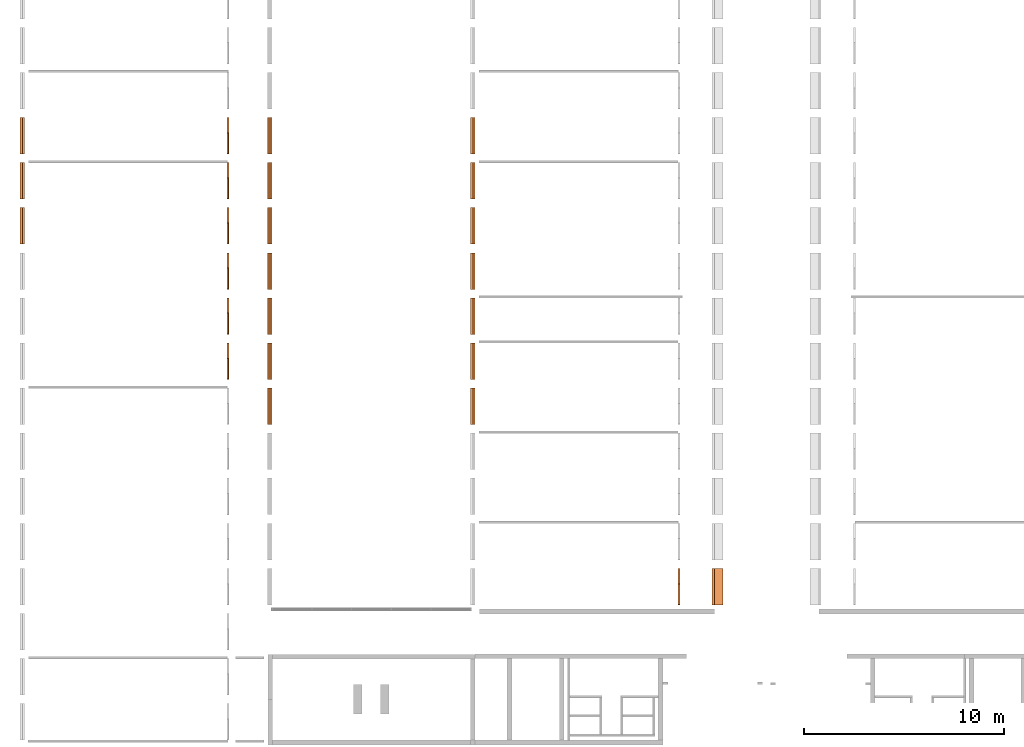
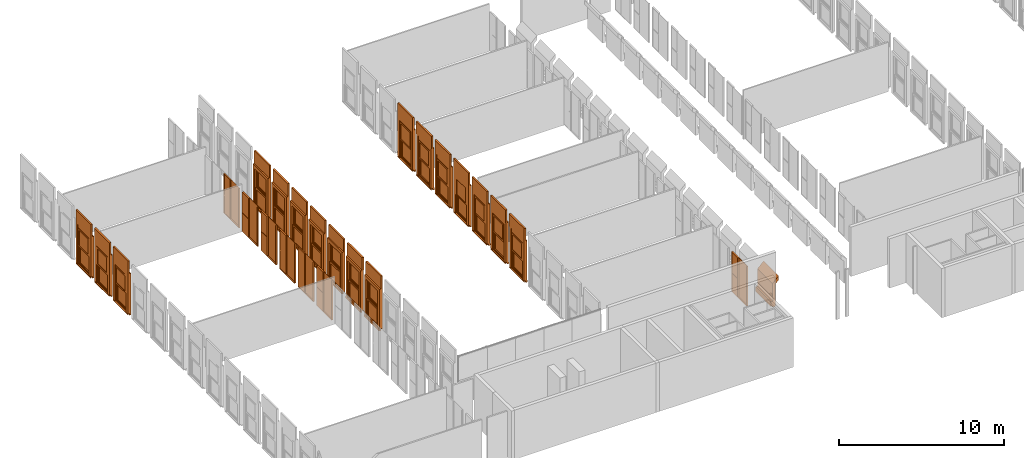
# One storey, part 7 of 13: 25 proxies.
"""IFC2X3 building model written with IfcOpenShell, lengths in millimetres."""

import ifcopenshell
import ifcopenshell.guid

model = None  # the IFC model being written
_history = None  # IfcOwnerHistory: only IFC2X3 demands one
_inside = {}  # id of a spatial element -> (the spatial element, [elements in it])
_under = {}  # id of a project, library or spatial element -> (it, [spatial elements below it])
_declared = {}  # id of a project -> (the project, [libraries it declares])
_typed = {}  # id of a type object -> (the type object, [elements of that type])
_made_of = {}  # id of a material, layer set ... -> (it, [elements and type objects made of it])


def new_model(schema):
    """Start an empty IFC model of exactly this schema.

    Asked for "IFC4X3", IfcOpenShell would pick the latest addendum, in which some entities
    have other attributes; the version numbers below select the first issue.
    IFC2X3 requires an IfcOwnerHistory on every rooted entity: one is made here for all.
    """
    global model, _history
    if schema == "IFC4X3":
        model = ifcopenshell.file(schema_version=(4, 3, 0, 0))
    else:
        model = ifcopenshell.file(schema=schema)
    _inside.clear()
    _under.clear()
    _declared.clear()
    _typed.clear()
    _made_of.clear()
    _history = None
    if model.schema == "IFC2X3":
        org = make("IfcOrganization", Name="unknown")
        user = make(
            "IfcPersonAndOrganization",
            ThePerson=make("IfcPerson", FamilyName="unknown"),
            TheOrganization=org,
        )
        app = make(
            "IfcApplication",
            ApplicationDeveloper=org,
            Version="unknown",
            ApplicationFullName="unknown",
            ApplicationIdentifier="unknown",
        )
        _history = make(
            "IfcOwnerHistory",
            OwningUser=user,
            OwningApplication=app,
            ChangeAction="ADDED",
            CreationDate=0,
        )
    return model


def make(cls, **values):
    """One entity of the class cls with the attributes given. An attribute that is None is left unset."""
    return model.create_entity(
        cls, **{name: value for name, value in values.items() if value is not None}
    )


def entity(cls, *values):
    """Any entity or typed value of the class cls, its attributes in the order of the schema. None: left unset."""
    e = model.create_entity(cls)
    for i, value in enumerate(values):
        if value is not None:
            e[i] = value
    return e


def rooted(cls, **values):
    """An entity with a GlobalId (a new one), such as an element, a storey or a relation."""
    return make(cls, GlobalId=ifcopenshell.guid.new(), OwnerHistory=_history, **values)


def si_unit(unit_type, name, prefix=None):
    """IfcSIUnit, for example si_unit("LENGTHUNIT", "METRE", prefix="MILLI")."""
    return make("IfcSIUnit", UnitType=unit_type, Prefix=prefix, Name=name)


def converted_unit(unit_type, name, factor, base, dimensions=None, offset=None):
    """IfcConversionBasedUnit, such as the inch: factor (a typed value) times the base unit."""
    return make(
        "IfcConversionBasedUnit"
        if offset is None
        else "IfcConversionBasedUnitWithOffset",
        ConversionOffset=offset,
        Dimensions=None
        if dimensions is None
        else entity("IfcDimensionalExponents", *dimensions),
        UnitType=unit_type,
        Name=name,
        ConversionFactor=make(
            "IfcMeasureWithUnit", ValueComponent=factor, UnitComponent=base
        ),
    )


def derived_unit(unit_type, elements):
    """IfcDerivedUnit: a product of units, each with its exponent."""
    return make(
        "IfcDerivedUnit",
        Elements=[
            make("IfcDerivedUnitElement", Unit=unit, Exponent=power)
            for unit, power in elements
        ],
        UnitType=unit_type,
    )


def assignment(units):
    """IfcUnitAssignment: the units of a project."""
    return None if units is None else make("IfcUnitAssignment", Units=units)


def point(xyz):
    """IfcCartesianPoint."""
    return None if xyz is None else make("IfcCartesianPoint", Coordinates=xyz)


def direction(xyz):
    """IfcDirection."""
    return None if xyz is None else make("IfcDirection", DirectionRatios=xyz)


def frame(location, z_axis=None, x_axis=None):
    """IfcAxis2Placement3D, a coordinate frame: its origin and axes. An axis left out is left unset."""
    return make(
        "IfcAxis2Placement3D",
        Location=point(location),
        Axis=direction(z_axis),
        RefDirection=direction(x_axis),
    )


def frame_2d(location, x_axis=None):
    """IfcAxis2Placement2D, a coordinate frame in the plane: its origin and x axis."""
    return make(
        "IfcAxis2Placement2D", Location=point(location), RefDirection=direction(x_axis)
    )


def origin():
    """The frame at (0, 0, 0) with its axes left unset."""
    return frame((0.0, 0.0, 0.0))


def origin_2d_with_axis():
    """The frame at (0, 0) in the plane with the x axis (1, 0) written out."""
    return frame_2d((0.0, 0.0), x_axis=(1.0, 0.0))


def place(relative_to, where):
    """IfcLocalPlacement: puts the frame where relative to a parent placement (None: the world)."""
    return make(
        "IfcLocalPlacement", PlacementRelTo=relative_to, RelativePlacement=where
    )


def context(
    kind, dimensions, precision=None, world=None, true_north=None, identifier=None
):
    """IfcGeometricRepresentationContext, for example the 3D "Model" context."""
    return make(
        "IfcGeometricRepresentationContext",
        ContextIdentifier=identifier,
        ContextType=kind,
        CoordinateSpaceDimension=dimensions,
        Precision=precision,
        WorldCoordinateSystem=world,
        TrueNorth=true_north,
    )


def subcontext(parent, identifier, kind, view, scale=None):
    """IfcGeometricRepresentationSubContext, for example "Body" below "Model"."""
    return make(
        "IfcGeometricRepresentationSubContext",
        ContextIdentifier=identifier,
        ContextType=kind,
        ParentContext=parent,
        TargetScale=scale,
        TargetView=view,
    )


def project(units=None, contexts=None):
    """IfcProject with its units and contexts."""
    return rooted(
        "IfcProject",
        Name="project",
        RepresentationContexts=contexts,
        UnitsInContext=assignment(units),
    )


def spatial(cls, under=None, at=None, **own):
    """A site, building, storey or space (cls), placed at a placement, below another one or the project."""
    s = rooted(cls, ObjectPlacement=at, **own)
    if under is not None:
        _under.setdefault(under.id(), (under, []))[1].append(s)
    return s


def polyline(points):
    """IfcPolyline through the points."""
    return make("IfcPolyline", Points=[point(p) for p in points])


def profile(cls, at=None, kind="AREA", **sizes):
    """A parametric profile (cls). Its sizes go by their IFC names, for example OverallWidth=200.0."""
    return make(cls, ProfileType=kind, Position=at, **sizes)


def rectangle(**sizes):
    """IfcRectangleProfileDef."""
    return profile("IfcRectangleProfileDef", **sizes)


def outline(outer, holes=None, kind="AREA"):
    """IfcArbitraryClosedProfileDef: a profile drawn as a closed curve; with holes, ...WithVoids."""
    if holes is None:
        return make("IfcArbitraryClosedProfileDef", ProfileType=kind, OuterCurve=outer)
    return make(
        "IfcArbitraryProfileDefWithVoids",
        ProfileType=kind,
        OuterCurve=outer,
        InnerCurves=holes,
    )


def extrude(swept, where, along, depth):
    """IfcExtrudedAreaSolid: the profile swept, set in the frame where, extruded along a direction by depth."""
    return make(
        "IfcExtrudedAreaSolid",
        SweptArea=swept,
        Position=where,
        ExtrudedDirection=direction(along),
        Depth=depth,
    )


def shape(context_of_items, identifier, shape_type, items):
    """IfcShapeRepresentation: the items that make up one representation, for example the "Body"."""
    return make(
        "IfcShapeRepresentation",
        ContextOfItems=context_of_items,
        RepresentationIdentifier=identifier,
        RepresentationType=shape_type,
        Items=items,
    )


def source(mapping_origin, context_of_items, identifier, shape_type, items):
    """IfcRepresentationMap: a shape defined once, which mapped items show again and again."""
    return make(
        "IfcRepresentationMap",
        MappingOrigin=mapping_origin,
        MappedRepresentation=shape(context_of_items, identifier, shape_type, items),
    )


def transform(
    local_origin,
    x_axis=None,
    y_axis=None,
    z_axis=None,
    scale=None,
    scale2=None,
    scale3=None,
    uniform=True,
):
    """IfcCartesianTransformationOperator3D, or its non-uniform kind. x_axis, y_axis, z_axis: its Axis1, 2, 3."""
    if uniform:
        return make(
            "IfcCartesianTransformationOperator3D",
            Axis1=direction(x_axis),
            Axis2=direction(y_axis),
            LocalOrigin=point(local_origin),
            Scale=scale,
            Axis3=direction(z_axis),
        )
    return make(
        "IfcCartesianTransformationOperator3DnonUniform",
        Axis1=direction(x_axis),
        Axis2=direction(y_axis),
        LocalOrigin=point(local_origin),
        Scale=scale,
        Axis3=direction(z_axis),
        Scale2=scale2,
        Scale3=scale3,
    )


def mapped(mapping_source, mapping_target):
    """IfcMappedItem: shows the shape of a source again, moved by a transform."""
    return make(
        "IfcMappedItem", MappingSource=mapping_source, MappingTarget=mapping_target
    )


def material(Name=None, Category=None):
    """IfcMaterial."""
    return make("IfcMaterial", Name=Name, Category=Category)


def material_list(materials):
    """IfcMaterialList."""
    return make("IfcMaterialList", Materials=materials)


def made_of(thing, what):
    """Note that an element or type object is made of a material, layer set ...; save() writes the relation."""
    if what is not None:
        _made_of.setdefault(what.id(), (what, []))[1].append(thing)
    return thing


def type_object(cls, material=None, **own):
    """A type object (cls), such as IfcWallType, which elements share."""
    return made_of(rooted(cls, **own), material)


def type_shapes(of_type, sources):
    """Give a type object the sources (RepresentationMaps) that its elements show as mapped items."""
    of_type.RepresentationMaps = sources


def element(
    cls,
    number,
    at=None,
    inside=None,
    cuts=None,
    type_object=None,
    material=None,
    context=None,
    identifier="Body",
    shape_type=None,
    held_by="IfcProductDefinitionShape",
    body=None,
    shapes=None,
    **own,
):
    """One element of the class cls, such as IfcWall. Its Tag is "e" and its number.

    at: its placement. inside: the storey or other place that contains it. cuts: it is an
    opening in that element (IfcRelVoidsElement). A single representation is given by context,
    identifier, shape_type and body (its items); several are given by shapes. held_by: the class
    of the entity that holds the representations. save() writes the other relations.
    """
    e = rooted(cls, Tag="e%d" % number, ObjectPlacement=at, **own)
    if body is not None:
        shapes = [shape(context, identifier, shape_type, body)]
    if shapes is not None:
        e.Representation = make(held_by, Representations=shapes)
    if inside is not None:
        _inside.setdefault(inside.id(), (inside, []))[1].append(e)
    if cuts is not None:
        rooted(
            "IfcRelVoidsElement", RelatingBuildingElement=cuts, RelatedOpeningElement=e
        )
    if type_object is not None:
        _typed.setdefault(type_object.id(), (type_object, []))[1].append(e)
    return made_of(e, material)


def aggregate(whole, parts):
    """IfcRelAggregates: a whole, such as a stair, and the parts it consists of."""
    return rooted("IfcRelAggregates", RelatingObject=whole, RelatedObjects=parts)


def save(model, path):
    """Write the relations noted so far, then the file.

    IfcRelAggregates (storeys below a building ...), IfcRelContainedInSpatialStructure (elements
    in a storey), IfcRelDefinesByType, IfcRelAssociatesMaterial and IfcRelDeclares: one each for
    every whole, place, type object, material and project.
    """
    for whole, parts in _under.values():
        aggregate(whole, parts)
    for where, things in _inside.values():
        rooted(
            "IfcRelContainedInSpatialStructure",
            RelatedElements=things,
            RelatingStructure=where,
        )
    for kind, things in _typed.values():
        rooted("IfcRelDefinesByType", RelatedObjects=things, RelatingType=kind)
    for what, things in _made_of.values():
        rooted("IfcRelAssociatesMaterial", RelatedObjects=things, RelatingMaterial=what)
    for by, libraries in _declared.values():
        rooted("IfcRelDeclares", RelatingContext=by, RelatedDefinitions=libraries)
    model.write(path)


model = new_model("IFC2X3")

# Units and contexts
model_context = context("Model", 3, precision=0.01, world=origin(), true_north=direction((6.12303176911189e-17, 1.0)))
body_context = subcontext(model_context, "Body", "Model", "MODEL_VIEW")
ifc_project = project(units=[si_unit("LENGTHUNIT", "METRE", prefix="MILLI"), si_unit("AREAUNIT", "SQUARE_METRE"), si_unit("VOLUMEUNIT", "CUBIC_METRE"), converted_unit("PLANEANGLEUNIT", "DEGREE", entity("IfcRatioMeasure", 0.0174532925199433), si_unit("PLANEANGLEUNIT", "RADIAN"), dimensions=[0, 0, 0, 0, 0, 0, 0]), si_unit("MASSUNIT", "GRAM", prefix="KILO"), derived_unit("MASSDENSITYUNIT", [(si_unit("MASSUNIT", "GRAM", prefix="KILO"), 1), (si_unit("LENGTHUNIT", "METRE"), -3)]), derived_unit("MOMENTOFINERTIAUNIT", [(si_unit("LENGTHUNIT", "METRE"), 4)]), si_unit("TIMEUNIT", "SECOND"), si_unit("FREQUENCYUNIT", "HERTZ"), si_unit("THERMODYNAMICTEMPERATUREUNIT", "DEGREE_CELSIUS"), derived_unit("THERMALTRANSMITTANCEUNIT", [(si_unit("MASSUNIT", "GRAM", prefix="KILO"), 1), (si_unit("THERMODYNAMICTEMPERATUREUNIT", "KELVIN"), -1), (si_unit("TIMEUNIT", "SECOND"), -3)]), derived_unit("VOLUMETRICFLOWRATEUNIT", [(si_unit("LENGTHUNIT", "METRE"), 3), (si_unit("TIMEUNIT", "SECOND"), -1)]), si_unit("ELECTRICCURRENTUNIT", "AMPERE"), si_unit("ELECTRICVOLTAGEUNIT", "VOLT"), si_unit("POWERUNIT", "WATT"), si_unit("FORCEUNIT", "NEWTON", prefix="KILO"), si_unit("ILLUMINANCEUNIT", "LUX"), si_unit("LUMINOUSFLUXUNIT", "LUMEN"), si_unit("LUMINOUSINTENSITYUNIT", "CANDELA"), derived_unit("USERDEFINED", [(si_unit("MASSUNIT", "GRAM", prefix="KILO"), -1), (si_unit("LENGTHUNIT", "METRE"), -2), (si_unit("TIMEUNIT", "SECOND"), 3), (si_unit("LUMINOUSFLUXUNIT", "LUMEN"), 1)]), derived_unit("LINEARVELOCITYUNIT", [(si_unit("LENGTHUNIT", "METRE"), 1), (si_unit("TIMEUNIT", "SECOND"), -1)]), si_unit("PRESSUREUNIT", "PASCAL"), derived_unit("USERDEFINED", [(si_unit("LENGTHUNIT", "METRE"), -2), (si_unit("MASSUNIT", "GRAM", prefix="KILO"), 1), (si_unit("TIMEUNIT", "SECOND"), -2)]), derived_unit("LINEARFORCEUNIT", [(si_unit("MASSUNIT", "GRAM", prefix="KILO"), 1), (si_unit("LENGTHUNIT", "METRE"), 1), (si_unit("TIMEUNIT", "SECOND"), -2), (si_unit("LENGTHUNIT", "METRE"), -1)]), derived_unit("PLANARFORCEUNIT", [(si_unit("MASSUNIT", "GRAM", prefix="KILO"), 1), (si_unit("LENGTHUNIT", "METRE"), 1), (si_unit("TIMEUNIT", "SECOND"), -2), (si_unit("LENGTHUNIT", "METRE"), -2)])], contexts=[model_context])

# Site, building, storey
site_placement = place(None, frame((10627.5135316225, 21939.0796949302, 0.0)))
site = spatial("IfcSite", under=ifc_project, at=site_placement, Name="Default", CompositionType="ELEMENT")
building_placement = place(site_placement, origin())
building = spatial("IfcBuilding", under=site, at=building_placement, CompositionType="ELEMENT")
storey_placement = place(building_placement, frame((0.0, 0.0, 7320.0)))
storey = spatial("IfcBuildingStorey", under=building, at=storey_placement, Name="R+2", CompositionType="ELEMENT", Elevation=7320.0)

# Proxies
ifc_material_1 = material(Name="PVC, Flexible")
ifc_material_2 = material(Name="Glass")
ifc_material_list_1 = material_list([ifc_material_1, ifc_material_2])
building_element_proxy_type_1 = type_object("IfcBuildingElementProxyType", Name="FENETRE.dwg:Fenetre ext 296+95", PredefinedType="NOTDEFINED", material=ifc_material_1)
shared_shape_1 = source(origin(), body_context, "Body", "SweptSolid", [
    extrude(rectangle(XDim=1829.99999999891, YDim=112.500043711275, at=origin_2d_with_axis()), frame((-10.4189092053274, 56.2500218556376, 2960.0), z_axis=(0.0, 0.0, 1.0), x_axis=(-1.0, 0.0, 0.0)), (0.0, 0.0, 1.0), 949.999999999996),
    extrude(outline(polyline([(-68.5678005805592, -14.3879872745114), (-72.4883397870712, -33.9999574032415), (-67.5853472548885, -34.9800922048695), (-63.9024543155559, -16.5569155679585), (44.3087537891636, -16.5569155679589), (54.1101018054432, 32.4730097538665), (40.6268723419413, 35.1683804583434), (40.1368049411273, 32.7168841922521), (51.168538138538, 30.5115808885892), (42.1928709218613, -14.3879872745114), (-68.5678005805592, -14.3879872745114)])), frame((-925.418909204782, 66.917049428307, -47.5499763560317), z_axis=(-1.0, 0.0, 0.0), x_axis=(0.0, 0.980598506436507, -0.196026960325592)), (0.0, 0.0, -1.0), 1829.99999999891),
    extrude(outline(polyline([(-64.667066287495, -56.2500218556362), (66.1666874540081, -56.2500218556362), (66.1666874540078, 56.2500218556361), (-67.6663086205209, 56.2500218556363), (-64.667066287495, -56.2500218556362)])), frame((-925.418909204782, -56.2500218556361, -63.833312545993), z_axis=(1.0, 0.0, 0.0), x_axis=(0.0, 0.0, -1.0)), (0.0, 0.0, 1.0), 1829.99999999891),
    extrude(outline(polyline([(-55.5555555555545, 97.0007159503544), (-55.5555555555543, -5.85738417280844), (-55.5555555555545, -95.357341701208), (-45.5555555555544, -95.3573417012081), (-45.5555555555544, -105.357341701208), (174.444444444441, -105.357341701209), (174.444444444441, 106.642659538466), (-45.5555555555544, 106.642659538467), (-45.5555555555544, 97.0007159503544), (-55.5555555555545, 97.0007159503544)])), frame((849.025535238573, 5.85738417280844, 0.0), z_axis=(0.0, 0.0, -1.0), x_axis=(-1.0, 0.0, 0.0)), (0.0, 0.0, -1.0), 2960.0),
    extrude(rectangle(XDim=199.499957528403, YDim=1369.99999999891, at=origin_2d_with_axis()), frame((-10.4189092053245, 0.250021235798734, 2730.0), z_axis=(0.0, 0.0, 1.0), x_axis=(0.0, 1.0, 0.0)), (0.0, 0.0, 1.0), 230.000000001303),
    extrude(outline(polyline([(-97.0007159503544, -55.5555555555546), (5.85738417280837, -55.5555555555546), (95.357341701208, -55.5555555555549), (95.357341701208, -45.5555555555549), (105.357341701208, -45.5555555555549), (105.357341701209, 174.44444444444), (-106.642659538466, 174.444444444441), (-106.642659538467, -45.5555555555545), (-97.0007159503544, -45.5555555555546), (-97.0007159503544, -55.5555555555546)])), frame((-869.863353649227, 5.85738417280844, 0.0), z_axis=(0.0, 0.0, 1.0), x_axis=(0.0, -1.0, 0.0)), (0.0, 0.0, 1.0), 2960.0),
    extrude(rectangle(XDim=1.0, YDim=1079.99999999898, at=origin_2d_with_axis()), frame((-10.4189092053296, -19.5, 130.0), z_axis=(0.0, 0.0, 1.0), x_axis=(0.0, 1.0, 0.0)), (0.0, 0.0, 1.0), 1120.00000000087),
    extrude(rectangle(XDim=1.0, YDim=1079.99999999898, at=frame_2d((-4.21884749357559e-15, 0.0), x_axis=(1.0, 0.0))), frame((-10.4189092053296, -30.5, 130.0), z_axis=(0.0, 0.0, 1.0), x_axis=(0.0, 1.0, 0.0)), (0.0, 0.0, 1.0), 1120.00000000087),
    extrude(rectangle(XDim=1.0, YDim=1079.99999999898, at=frame_2d((-4.21884749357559e-15, 0.0), x_axis=(1.0, 0.0))), frame((-10.4189092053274, 69.5, 1465.0), z_axis=(0.0, 0.0, 1.0), x_axis=(0.0, 1.0, 0.0)), (0.0, 0.0, 1.0), 1120.0),
    extrude(rectangle(XDim=0.999999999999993, YDim=1079.99999999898, at=frame_2d((-8.46545056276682e-15, 0.0), x_axis=(1.0, 0.0))), frame((-10.4189092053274, 80.5, 1465.0), z_axis=(0.0, 0.0, 1.0), x_axis=(0.0, 1.0, 0.0)), (0.0, 0.0, 1.0), 1120.00000000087),
    extrude(outline(polyline([(-685.0, -1365.0), (0.0, -1365.0), (685.0, -1365.0), (685.0, 1365.0), (0.0, 1365.0), (-685.0, 1365.0), (-685.0, -1365.0)]), holes=[polyline([(-640.0, -1320.0), (-640.0, -45.0), (0.0, -45.0), (640.0, -45.0), (640.0, -1320.0), (0.0, -1320.0), (-640.0, -1320.0)]), polyline([(-640.0, 40.0), (-640.0, 1315.0), (0.0, 1315.0), (640.0, 1315.0), (640.0, 40.0), (0.0, 40.0), (-640.0, 40.0)])]), frame((-10.4189092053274, 0.0, 1365.0), z_axis=(0.0, 1.0, 0.0), x_axis=(1.0, 0.0, 0.0)), (0.0, 0.0, 1.0), 50.0),
    extrude(outline(polyline([(-655.0, -667.500000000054), (655.0, -667.500000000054), (655.0, 667.500000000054), (-655.0, 667.500000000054), (-655.0, -667.500000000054)]), holes=[polyline([(-540.0, 552.500000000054), (540.0, 552.500000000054), (540.0, -567.500000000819), (-540.0, -567.500000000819), (-540.0, 552.500000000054)])]), frame((-10.4189092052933, -50.0, 697.500000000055), z_axis=(0.0, 1.0, 0.0), x_axis=(-1.0, 0.0, 0.0)), (0.0, 0.0, 1.0), 50.0),
    extrude(outline(polyline([(-655.0, -667.500000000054), (655.0, -667.500000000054), (655.0, 667.500000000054), (-655.0, 667.500000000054), (-655.0, -667.500000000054)]), holes=[polyline([(-540.0, 552.500000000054), (540.0, 552.500000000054), (540.0, -567.500000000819), (-540.0, -567.500000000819), (-540.0, 552.500000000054)])]), frame((-10.4189092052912, 50.0, 2032.50000000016), z_axis=(0.0, 1.0, 0.0), x_axis=(-1.0, 0.0, 0.0)), (0.0, 0.0, 1.0), 50.0),
])
type_shapes(building_element_proxy_type_1, [shared_shape_1])
proxy_1_placement = place(storey_placement, frame((-10728.9017825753, 8581.33921427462, 0.0), z_axis=(0.0, 0.0, 1.0), x_axis=(0.0, 1.0, 0.0)))
element("IfcBuildingElementProxy", 1, at=proxy_1_placement, inside=storey, type_object=building_element_proxy_type_1, material=ifc_material_list_1, Name="FENETRE.dwg:Fenetre ext 296+95", ObjectType="FENETRE.dwg:Fenetre ext 296+95", context=body_context, shape_type="MappedRepresentation", body=[
    mapped(shared_shape_1, transform((0.0, 0.0, 0.0), scale=1.0)),
])
ifc_material_list_2 = material_list([ifc_material_1, ifc_material_2])
proxy_2_placement = place(storey_placement, frame((-10728.9017825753, 6321.33921427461, 0.0), z_axis=(0.0, 0.0, 1.0), x_axis=(0.0, 1.0, 0.0)))
element("IfcBuildingElementProxy", 2, at=proxy_2_placement, inside=storey, type_object=building_element_proxy_type_1, material=ifc_material_list_2, Name="FENETRE.dwg:Fenetre ext 296+95", ObjectType="FENETRE.dwg:Fenetre ext 296+95", context=body_context, shape_type="MappedRepresentation", body=[
    mapped(shared_shape_1, transform((0.0, 0.0, 0.0), scale=1.0)),
])
ifc_material_list_3 = material_list([ifc_material_1, ifc_material_2])
proxy_3_placement = place(storey_placement, frame((-10728.9017825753, 4061.33921427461, 0.0), z_axis=(0.0, 0.0, 1.0), x_axis=(0.0, 1.0, 0.0)))
element("IfcBuildingElementProxy", 3, at=proxy_3_placement, inside=storey, type_object=building_element_proxy_type_1, material=ifc_material_list_3, Name="FENETRE.dwg:Fenetre ext 296+95", ObjectType="FENETRE.dwg:Fenetre ext 296+95", context=body_context, shape_type="MappedRepresentation", body=[
    mapped(shared_shape_1, transform((0.0, 0.0, 0.0), scale=1.0)),
])
ifc_material_list_4 = material_list([ifc_material_1, ifc_material_2])
proxy_4_placement = place(storey_placement, frame((11863.0982174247, 8581.33921427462, 0.0), z_axis=(0.0, 0.0, 1.0), x_axis=(0.0, 1.0, 0.0)))
element("IfcBuildingElementProxy", 4, at=proxy_4_placement, inside=storey, type_object=building_element_proxy_type_1, material=ifc_material_list_4, Name="FENETRE.dwg:Fenetre ext 296+95", ObjectType="FENETRE.dwg:Fenetre ext 296+95", context=body_context, shape_type="MappedRepresentation", body=[
    mapped(shared_shape_1, transform((0.0, 0.0, 0.0), scale=1.0)),
])
ifc_material_list_5 = material_list([ifc_material_1, ifc_material_2])
proxy_5_placement = place(storey_placement, frame((11863.0982174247, 6321.33921427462, 0.0), z_axis=(0.0, 0.0, 1.0), x_axis=(0.0, 1.0, 0.0)))
element("IfcBuildingElementProxy", 5, at=proxy_5_placement, inside=storey, type_object=building_element_proxy_type_1, material=ifc_material_list_5, Name="FENETRE.dwg:Fenetre ext 296+95", ObjectType="FENETRE.dwg:Fenetre ext 296+95", context=body_context, shape_type="MappedRepresentation", body=[
    mapped(shared_shape_1, transform((0.0, 0.0, 0.0), scale=1.0)),
])
ifc_material_list_6 = material_list([ifc_material_1, ifc_material_2])
proxy_6_placement = place(storey_placement, frame((11863.0982174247, 4061.33921427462, 0.0), z_axis=(0.0, 0.0, 1.0), x_axis=(0.0, 1.0, 0.0)))
element("IfcBuildingElementProxy", 6, at=proxy_6_placement, inside=storey, type_object=building_element_proxy_type_1, material=ifc_material_list_6, Name="FENETRE.dwg:Fenetre ext 296+95", ObjectType="FENETRE.dwg:Fenetre ext 296+95", context=body_context, shape_type="MappedRepresentation", body=[
    mapped(shared_shape_1, transform((0.0, 0.0, 0.0), scale=1.0)),
])
ifc_material_list_7 = material_list([ifc_material_1, ifc_material_2])
proxy_7_placement = place(storey_placement, frame((11863.0982174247, 1801.33921427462, 0.0), z_axis=(0.0, 0.0, 1.0), x_axis=(0.0, 1.0, 0.0)))
element("IfcBuildingElementProxy", 7, at=proxy_7_placement, inside=storey, type_object=building_element_proxy_type_1, material=ifc_material_list_7, Name="FENETRE.dwg:Fenetre ext 296+95", ObjectType="FENETRE.dwg:Fenetre ext 296+95", context=body_context, shape_type="MappedRepresentation", body=[
    mapped(shared_shape_1, transform((0.0, 0.0, 0.0), scale=1.0)),
])
ifc_material_list_8 = material_list([ifc_material_1, ifc_material_2])
proxy_8_placement = place(storey_placement, frame((11863.0982174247, -458.660785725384, 0.0), z_axis=(0.0, 0.0, 1.0), x_axis=(0.0, 1.0, 0.0)))
element("IfcBuildingElementProxy", 8, at=proxy_8_placement, inside=storey, type_object=building_element_proxy_type_1, material=ifc_material_list_8, Name="FENETRE.dwg:Fenetre ext 296+95", ObjectType="FENETRE.dwg:Fenetre ext 296+95", context=body_context, shape_type="MappedRepresentation", body=[
    mapped(shared_shape_1, transform((0.0, 0.0, 0.0), scale=1.0)),
])
ifc_material_list_9 = material_list([ifc_material_1, ifc_material_2])
proxy_9_placement = place(storey_placement, frame((11863.0982174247, -2718.66078572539, 0.0), z_axis=(0.0, 0.0, 1.0), x_axis=(0.0, 1.0, 0.0)))
element("IfcBuildingElementProxy", 9, at=proxy_9_placement, inside=storey, type_object=building_element_proxy_type_1, material=ifc_material_list_9, Name="FENETRE.dwg:Fenetre ext 296+95", ObjectType="FENETRE.dwg:Fenetre ext 296+95", context=body_context, shape_type="MappedRepresentation", body=[
    mapped(shared_shape_1, transform((0.0, 0.0, 0.0), scale=1.0)),
])
ifc_material_list_10 = material_list([ifc_material_1, ifc_material_2])
proxy_10_placement = place(storey_placement, frame((11863.0982174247, -4978.66078572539, 0.0), z_axis=(0.0, 0.0, 1.0), x_axis=(0.0, 1.0, 0.0)))
element("IfcBuildingElementProxy", 10, at=proxy_10_placement, inside=storey, type_object=building_element_proxy_type_1, material=ifc_material_list_10, Name="FENETRE.dwg:Fenetre ext 296+95", ObjectType="FENETRE.dwg:Fenetre ext 296+95", context=body_context, shape_type="MappedRepresentation", body=[
    mapped(shared_shape_1, transform((0.0, 0.0, 0.0), scale=1.0)),
])
ifc_material_list_11 = material_list([ifc_material_1, ifc_material_2])
building_element_proxy_type_2 = type_object("IfcBuildingElementProxyType", Name="FENETRE.dwg:Fenetre ext 296+95", PredefinedType="NOTDEFINED", material=ifc_material_1)
shared_shape_2 = source(origin(), body_context, "Body", "SweptSolid", [
    extrude(rectangle(XDim=112.500043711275, YDim=1829.99999999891, at=origin_2d_with_axis()), frame((-10.4189092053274, -56.2500218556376, 2960.0), z_axis=(0.0, 0.0, 1.0), x_axis=(0.0, 1.0, 0.0)), (0.0, 0.0, 1.0), 949.999999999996),
    extrude(outline(polyline([(27.5499763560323, -64.4170494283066), (47.5499763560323, -64.4170494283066), (47.5499763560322, -59.4170494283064), (28.7622905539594, -59.4170494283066), (7.54997635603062, 46.6946996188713), (-42.4500236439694, 46.6946996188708), (-42.4500236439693, 32.9446996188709), (-39.9500236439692, 32.9446996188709), (-39.9500236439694, 44.1946996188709), (5.83789859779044, 44.1946996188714), (27.5499763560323, -64.4170494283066)])), frame((-925.418909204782, -66.917049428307, -47.5499763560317), z_axis=(1.0, 0.0, 0.0), x_axis=(0.0, 0.0, 1.0)), (0.0, 0.0, 1.0), 1829.99999999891),
    extrude(outline(polyline([(-54.506636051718, -66.1431859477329), (58.0333803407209, -66.1431859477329), (54.4666704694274, 67.6422744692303), (-57.9934147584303, 64.6440974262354), (-54.506636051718, -66.1431859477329)])), frame((-925.418909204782, 56.2500218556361, -63.833312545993), z_axis=(1.0, 0.0, 0.0), x_axis=(0.0, -0.999644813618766, 0.0266504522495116)), (0.0, 0.0, 1.0), 1829.99999999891),
    extrude(outline(polyline([(-97.0007159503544, -55.5555555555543), (5.85738417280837, -55.5555555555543), (95.357341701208, -55.5555555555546), (95.357341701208, -45.5555555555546), (105.357341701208, -45.5555555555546), (105.357341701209, 174.444444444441), (-106.642659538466, 174.444444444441), (-106.642659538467, -45.5555555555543), (-97.0007159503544, -45.5555555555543), (-97.0007159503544, -55.5555555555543)])), frame((849.025535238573, -5.85738417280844, 0.0), z_axis=(0.0, 0.0, 1.0), x_axis=(0.0, 1.0, 0.0)), (0.0, 0.0, 1.0), 2960.0),
    extrude(rectangle(XDim=1369.99999999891, YDim=199.499957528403, at=origin_2d_with_axis()), frame((-10.4189092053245, -0.250021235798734, 2730.0), z_axis=(0.0, 0.0, 1.0), x_axis=(-1.0, 0.0, 0.0)), (0.0, 0.0, 1.0), 230.000000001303),
    extrude(outline(polyline([(-55.5555555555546, 97.0007159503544), (-55.5555555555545, -5.85738417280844), (-55.5555555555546, -95.357341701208), (-45.5555555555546, -95.3573417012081), (-45.5555555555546, -105.357341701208), (174.444444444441, -105.357341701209), (174.444444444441, 106.642659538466), (-45.5555555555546, 106.642659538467), (-45.5555555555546, 97.0007159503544), (-55.5555555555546, 97.0007159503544)])), frame((-869.863353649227, -5.85738417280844, 0.0), z_axis=(0.0, 0.0, -1.0), x_axis=(1.0, 0.0, 0.0)), (0.0, 0.0, -1.0), 2960.0),
    extrude(rectangle(XDim=1079.99999999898, YDim=1.0, at=origin_2d_with_axis()), frame((-10.4189092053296, 19.5, 130.0), z_axis=(0.0, 0.0, 1.0), x_axis=(-1.0, 0.0, 0.0)), (0.0, 0.0, 1.0), 1120.00000000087),
    extrude(rectangle(XDim=1079.99999999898, YDim=1.0, at=origin_2d_with_axis()), frame((-10.4189092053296, 30.5, 130.0), z_axis=(0.0, 0.0, 1.0), x_axis=(-1.0, 0.0, 0.0)), (0.0, 0.0, 1.0), 1120.00000000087),
    extrude(rectangle(XDim=1079.99999999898, YDim=1.0, at=frame_2d((0.0, 4.21884749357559e-15), x_axis=(1.0, 0.0))), frame((-10.4189092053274, -69.5, 1465.0), z_axis=(0.0, 0.0, 1.0), x_axis=(-1.0, 0.0, 0.0)), (0.0, 0.0, 1.0), 1120.0),
    extrude(rectangle(XDim=1079.99999999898, YDim=0.999999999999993, at=frame_2d((0.0, -8.46545056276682e-15), x_axis=(1.0, 0.0))), frame((-10.4189092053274, -80.5, 1465.0), z_axis=(0.0, 0.0, 1.0), x_axis=(-1.0, 0.0, 0.0)), (0.0, 0.0, 1.0), 1120.00000000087),
    extrude(outline(polyline([(-685.0, -1365.0), (0.0, -1365.0), (685.0, -1365.0), (685.0, 1365.0), (0.0, 1365.0), (-685.0, 1365.0), (-685.0, -1365.0)]), holes=[polyline([(-640.0, -1320.0), (-640.0, -45.0), (0.0, -45.0), (640.0, -45.0), (640.0, -1320.0), (0.0, -1320.0), (-640.0, -1320.0)]), polyline([(-640.0, 40.0), (-640.0, 1315.0), (0.0, 1315.0), (640.0, 1315.0), (640.0, 40.0), (0.0, 40.0), (-640.0, 40.0)])]), frame((-10.4189092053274, -50.0, 1365.0), z_axis=(0.0, 1.0, 0.0), x_axis=(1.0, 0.0, 0.0)), (0.0, 0.0, 1.0), 50.0),
    extrude(outline(polyline([(-655.0, -667.500000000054), (655.0, -667.500000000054), (655.0, 667.500000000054), (-655.0, 667.500000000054), (-655.0, -667.500000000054)]), holes=[polyline([(-540.0, 552.500000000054), (540.0, 552.500000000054), (540.0, -567.500000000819), (-540.0, -567.500000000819), (-540.0, 552.500000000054)])]), frame((-10.4189092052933, 0.0, 697.500000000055), z_axis=(0.0, 1.0, 0.0), x_axis=(-1.0, 0.0, 0.0)), (0.0, 0.0, 1.0), 50.0),
    extrude(outline(polyline([(-655.0, -667.500000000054), (655.0, -667.500000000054), (655.0, 667.500000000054), (-655.0, 667.500000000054), (-655.0, -667.500000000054)]), holes=[polyline([(-540.0, 552.500000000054), (540.0, 552.500000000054), (540.0, -567.500000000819), (-540.0, -567.500000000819), (-540.0, 552.500000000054)])]), frame((-10.4189092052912, -100.0, 2032.50000000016), z_axis=(0.0, 1.0, 0.0), x_axis=(-1.0, 0.0, 0.0)), (0.0, 0.0, 1.0), 50.0),
])
type_shapes(building_element_proxy_type_2, [shared_shape_2])
proxy_11_placement = place(storey_placement, frame((1681.87471933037, 8581.33921427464, 0.0), z_axis=(0.0, 0.0, 1.0), x_axis=(0.0, 1.0, 0.0)))
element("IfcBuildingElementProxy", 11, at=proxy_11_placement, inside=storey, type_object=building_element_proxy_type_2, material=ifc_material_list_11, Name="FENETRE.dwg:Fenetre ext 296+95", ObjectType="FENETRE.dwg:Fenetre ext 296+95", context=body_context, shape_type="MappedRepresentation", body=[
    mapped(shared_shape_2, transform((0.0, 0.0, 0.0), scale=1.0)),
])
ifc_material_list_12 = material_list([ifc_material_1, ifc_material_2])
proxy_12_placement = place(storey_placement, frame((1681.87471933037, 6321.33921427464, 0.0), z_axis=(0.0, 0.0, 1.0), x_axis=(0.0, 1.0, 0.0)))
element("IfcBuildingElementProxy", 12, at=proxy_12_placement, inside=storey, type_object=building_element_proxy_type_2, material=ifc_material_list_12, Name="FENETRE.dwg:Fenetre ext 296+95", ObjectType="FENETRE.dwg:Fenetre ext 296+95", context=body_context, shape_type="MappedRepresentation", body=[
    mapped(shared_shape_2, transform((0.0, 0.0, 0.0), scale=1.0)),
])
ifc_material_list_13 = material_list([ifc_material_1, ifc_material_2])
proxy_13_placement = place(storey_placement, frame((1681.87471933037, 4061.33921427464, 0.0), z_axis=(0.0, 0.0, 1.0), x_axis=(0.0, 1.0, 0.0)))
element("IfcBuildingElementProxy", 13, at=proxy_13_placement, inside=storey, type_object=building_element_proxy_type_2, material=ifc_material_list_13, Name="FENETRE.dwg:Fenetre ext 296+95", ObjectType="FENETRE.dwg:Fenetre ext 296+95", context=body_context, shape_type="MappedRepresentation", body=[
    mapped(shared_shape_2, transform((0.0, 0.0, 0.0), scale=1.0)),
])
ifc_material_list_14 = material_list([ifc_material_1, ifc_material_2])
proxy_14_placement = place(storey_placement, frame((1681.87471933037, 1801.33921427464, 0.0), z_axis=(0.0, 0.0, 1.0), x_axis=(0.0, 1.0, 0.0)))
element("IfcBuildingElementProxy", 14, at=proxy_14_placement, inside=storey, type_object=building_element_proxy_type_2, material=ifc_material_list_14, Name="FENETRE.dwg:Fenetre ext 296+95", ObjectType="FENETRE.dwg:Fenetre ext 296+95", context=body_context, shape_type="MappedRepresentation", body=[
    mapped(shared_shape_2, transform((0.0, 0.0, 0.0), scale=1.0)),
])
ifc_material_list_15 = material_list([ifc_material_1, ifc_material_2])
proxy_15_placement = place(storey_placement, frame((1681.87471933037, -458.660785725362, 0.0), z_axis=(0.0, 0.0, 1.0), x_axis=(0.0, 1.0, 0.0)))
element("IfcBuildingElementProxy", 15, at=proxy_15_placement, inside=storey, type_object=building_element_proxy_type_2, material=ifc_material_list_15, Name="FENETRE.dwg:Fenetre ext 296+95", ObjectType="FENETRE.dwg:Fenetre ext 296+95", context=body_context, shape_type="MappedRepresentation", body=[
    mapped(shared_shape_2, transform((0.0, 0.0, 0.0), scale=1.0)),
])
ifc_material_list_16 = material_list([ifc_material_1, ifc_material_2])
proxy_16_placement = place(storey_placement, frame((1681.87471933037, -2718.66078572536, 0.0), z_axis=(0.0, 0.0, 1.0), x_axis=(0.0, 1.0, 0.0)))
element("IfcBuildingElementProxy", 16, at=proxy_16_placement, inside=storey, type_object=building_element_proxy_type_2, material=ifc_material_list_16, Name="FENETRE.dwg:Fenetre ext 296+95", ObjectType="FENETRE.dwg:Fenetre ext 296+95", context=body_context, shape_type="MappedRepresentation", body=[
    mapped(shared_shape_2, transform((0.0, 0.0, 0.0), scale=1.0)),
])
ifc_material_list_17 = material_list([ifc_material_1, ifc_material_2])
proxy_17_placement = place(storey_placement, frame((1681.87471933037, -4978.66078572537, 0.0), z_axis=(0.0, 0.0, 1.0), x_axis=(0.0, 1.0, 0.0)))
element("IfcBuildingElementProxy", 17, at=proxy_17_placement, inside=storey, type_object=building_element_proxy_type_2, material=ifc_material_list_17, Name="FENETRE.dwg:Fenetre ext 296+95", ObjectType="FENETRE.dwg:Fenetre ext 296+95", context=body_context, shape_type="MappedRepresentation", body=[
    mapped(shared_shape_2, transform((0.0, 0.0, 0.0), scale=1.0)),
])
ifc_material_3 = material(Name="Plywood, Sheathing")
ifc_material_list_18 = material_list([ifc_material_3, ifc_material_2])
building_element_proxy_type_3 = type_object("IfcBuildingElementProxyType", Name="Porte noire:Porte noire", PredefinedType="NOTDEFINED", material=ifc_material_3)
shared_shape_3 = source(origin(), body_context, "Body", "SweptSolid", [
    extrude(rectangle(XDim=100.0, YDim=23.0000000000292, at=origin_2d_with_axis()), frame((-950.918997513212, -50.0, 8.73189890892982), z_axis=(0.0, 0.0, 1.0), x_axis=(0.0, 1.0, 0.0)), (0.0, 0.0, 1.0), 2933.34951039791),
    extrude(rectangle(XDim=19.0, YDim=1038.0, at=frame_2d((7.99360577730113e-15, 0.0), x_axis=(1.0, 0.0))), frame((-420.418997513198, -87.5, 43.7318989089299), z_axis=(0.0, 0.0, 1.0), x_axis=(0.0, 1.0, 0.0)), (0.0, 0.0, 1.0), 2898.5),
    extrude(rectangle(XDim=100.0, YDim=1775.0, at=origin_2d_with_axis()), frame((-51.9189975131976, -50.0, 8.73189890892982), z_axis=(0.0, 0.0, 1.0), x_axis=(0.0, 1.0, 0.0)), (0.0, 0.0, 1.0), 35.0000000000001),
    extrude(rectangle(XDim=100.0, YDim=35.0000000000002, at=origin_2d_with_axis()), frame((853.081002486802, -50.0, 8.73189890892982), z_axis=(0.0, 0.0, 1.0), x_axis=(0.0, 1.0, 0.0)), (0.0, 0.0, 1.0), 2898.5),
    extrude(rectangle(XDim=100.0, YDim=740.0, at=origin_2d_with_axis()), frame((500.581002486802, -50.0, 2907.23189890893), z_axis=(0.0, 0.0, 1.0), x_axis=(0.0, 1.0, 0.0)), (0.0, 0.0, 1.0), 35.0000000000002),
    extrude(rectangle(XDim=100.0, YDim=31.9999999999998, at=origin_2d_with_axis()), frame((114.581002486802, -50.0, 43.7318989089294), z_axis=(0.0, 0.0, 1.0), x_axis=(0.0, 1.0, 0.0)), (0.0, 0.0, 1.0), 2898.5),
    extrude(rectangle(XDim=100.0, YDim=705.0, at=origin_2d_with_axis()), frame((483.081002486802, -50.0, 1343.73189890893), z_axis=(0.0, 0.0, 1.0), x_axis=(0.0, 1.0, 0.0)), (0.0, 0.0, 1.0), 55.0),
    extrude(outline(polyline([(-352.5, -650.0), (352.5, -650.0), (352.5, 650.0), (-352.5, 650.0), (-352.5, -650.0)]), holes=[polyline([(342.5, 640.0), (342.5, -640.0), (-342.5, -640.0), (-342.5, 640.0), (342.5, 640.0)])]), frame((483.081002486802, -80.0, 693.73189890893), z_axis=(0.0, 1.0, 0.0), x_axis=(1.0, 0.0, 0.0)), (0.0, 0.0, 1.0), 70.0),
    extrude(outline(polyline([(-754.25, -352.5), (754.25, -352.5), (754.25, 352.5), (-754.25, 352.5), (-754.25, -352.5)]), holes=[polyline([(744.25, 342.5), (744.25, -342.5), (-744.25, -342.5), (-744.25, 342.5), (744.25, 342.5)])]), frame((483.081002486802, -80.0, 2152.98189890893), z_axis=(0.0, 1.0, 0.0), x_axis=(0.0, 0.0, 1.0)), (0.0, 0.0, 1.0), 70.0),
    extrude(outline(polyline([(-640.0, -342.5), (640.0, -342.5), (640.0, 342.5), (-640.0, 342.5), (-640.0, -342.5)]), holes=[polyline([(630.0, 332.5), (630.0, -332.5), (-630.0, -332.5), (-630.0, 332.5), (630.0, 332.5)])]), frame((483.081002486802, -81.0, 693.731898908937), z_axis=(0.0, 1.0, 0.0), x_axis=(0.0, 0.0, 1.0)), (0.0, 0.0, 1.0), 3.99999999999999),
    extrude(outline(polyline([(-744.25, -342.5), (744.25, -342.5), (744.25, 342.5), (-744.25, 342.5), (-744.25, -342.5)]), holes=[polyline([(734.25, 332.5), (734.25, -332.5), (-734.25, -332.5), (-734.25, 332.5), (734.25, 332.5)])]), frame((483.081002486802, -81.0, 2152.98189890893), z_axis=(0.0, 1.0, 0.0), x_axis=(0.0, 0.0, 1.0)), (0.0, 0.0, 1.0), 3.99999999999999),
    extrude(outline(polyline([(-640.0, -342.5), (640.0, -342.5), (640.0, 342.5), (-640.0, 342.5), (-640.0, -342.5)]), holes=[polyline([(630.0, 332.5), (630.0, -332.5), (-630.0, -332.5), (-630.0, 332.5), (630.0, 332.5)])]), frame((483.081002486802, -15.0, 693.782575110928), z_axis=(0.0, 1.0, 0.0), x_axis=(0.0, 0.0, 1.0)), (0.0, 0.0, 1.0), 5.0),
    extrude(outline(polyline([(-744.25, -342.5), (744.25, -342.5), (744.25, 342.5), (-744.25, 342.5), (-744.25, -342.5)]), holes=[polyline([(734.25, 332.5), (734.25, -332.5), (-734.25, -332.5), (-734.25, 332.5), (734.25, 332.5)])]), frame((483.081002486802, -15.0, 2153.03257511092), z_axis=(0.0, 1.0, 0.0), x_axis=(0.0, 0.0, 1.0)), (0.0, 0.0, 1.0), 5.0),
    extrude(rectangle(XDim=2.0, YDim=665.0, at=frame_2d((8.43769498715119e-15, 0.0), x_axis=(1.0, 0.0))), frame((483.081002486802, -79.0, 1418.73189890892), z_axis=(0.0, 0.0, 1.0), x_axis=(0.0, 1.0, 0.0)), (0.0, 0.0, 1.0), 1468.50000000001),
    extrude(rectangle(XDim=2.0, YDim=665.0, at=frame_2d((8.43769498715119e-15, 0.0), x_axis=(1.0, 0.0))), frame((483.081002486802, -79.0, 63.7318989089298), z_axis=(0.0, 0.0, 1.0), x_axis=(0.0, 1.0, 0.0)), (0.0, 0.0, 1.0), 1260.0),
    extrude(rectangle(XDim=2.0, YDim=665.0, at=frame_2d((1.0547118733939e-15, 0.0), x_axis=(1.0, 0.0))), frame((483.081002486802, -13.0, 1418.78257511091), z_axis=(0.0, 0.0, 1.0), x_axis=(0.0, 1.0, 0.0)), (0.0, 0.0, 1.0), 1468.50000000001),
    extrude(rectangle(XDim=2.0, YDim=665.0, at=frame_2d((1.0547118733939e-15, 0.0), x_axis=(1.0, 0.0))), frame((483.081002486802, -13.0, 63.7825751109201), z_axis=(0.0, 0.0, 1.0), x_axis=(0.0, 1.0, 0.0)), (0.0, 0.0, 1.0), 1260.0),
])
type_shapes(building_element_proxy_type_3, [shared_shape_3])
proxy_18_placement = place(storey_placement, frame((-462.153535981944, -2682.660697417, 0.0), z_axis=(0.0, 0.0, 1.0), x_axis=(0.0, 1.0, 0.0)))
element("IfcBuildingElementProxy", 18, at=proxy_18_placement, inside=storey, type_object=building_element_proxy_type_3, material=ifc_material_list_18, Name="Porte noire:Porte noire", ObjectType="Porte noire:Porte noire", context=body_context, shape_type="MappedRepresentation", body=[
    mapped(shared_shape_3, transform((0.0, 0.0, 0.0), scale=1.0)),
])
ifc_material_list_19 = material_list([ifc_material_3, ifc_material_2])
proxy_19_placement = place(storey_placement, frame((-462.153535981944, -422.660697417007, 0.0), z_axis=(0.0, 0.0, 1.0), x_axis=(0.0, 1.0, 0.0)))
element("IfcBuildingElementProxy", 19, at=proxy_19_placement, inside=storey, type_object=building_element_proxy_type_3, material=ifc_material_list_19, Name="Porte noire:Porte noire", ObjectType="Porte noire:Porte noire", context=body_context, shape_type="MappedRepresentation", body=[
    mapped(shared_shape_3, transform((0.0, 0.0, 0.0), scale=1.0)),
])
ifc_material_list_20 = material_list([ifc_material_3, ifc_material_2])
proxy_20_placement = place(storey_placement, frame((-462.153535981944, 1837.33930258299, 0.0), z_axis=(0.0, 0.0, 1.0), x_axis=(0.0, 1.0, 0.0)))
element("IfcBuildingElementProxy", 20, at=proxy_20_placement, inside=storey, type_object=building_element_proxy_type_3, material=ifc_material_list_20, Name="Porte noire:Porte noire", ObjectType="Porte noire:Porte noire", context=body_context, shape_type="MappedRepresentation", body=[
    mapped(shared_shape_3, transform((0.0, 0.0, 0.0), scale=1.0)),
])
ifc_material_list_21 = material_list([ifc_material_3, ifc_material_2])
proxy_21_placement = place(storey_placement, frame((-462.153535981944, 4097.33930258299, 0.0), z_axis=(0.0, 0.0, 1.0), x_axis=(0.0, 1.0, 0.0)))
element("IfcBuildingElementProxy", 21, at=proxy_21_placement, inside=storey, type_object=building_element_proxy_type_3, material=ifc_material_list_21, Name="Porte noire:Porte noire", ObjectType="Porte noire:Porte noire", context=body_context, shape_type="MappedRepresentation", body=[
    mapped(shared_shape_3, transform((0.0, 0.0, 0.0), scale=1.0)),
])
ifc_material_list_22 = material_list([ifc_material_3, ifc_material_2])
proxy_22_placement = place(storey_placement, frame((-462.153535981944, 6357.33930258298, 0.0), z_axis=(0.0, 0.0, 1.0), x_axis=(0.0, 1.0, 0.0)))
element("IfcBuildingElementProxy", 22, at=proxy_22_placement, inside=storey, type_object=building_element_proxy_type_3, material=ifc_material_list_22, Name="Porte noire:Porte noire", ObjectType="Porte noire:Porte noire", context=body_context, shape_type="MappedRepresentation", body=[
    mapped(shared_shape_3, transform((0.0, 0.0, 0.0), scale=1.0)),
])
ifc_material_list_23 = material_list([ifc_material_3, ifc_material_2])
proxy_23_placement = place(storey_placement, frame((-462.153535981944, 8617.33930258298, 0.0), z_axis=(0.0, 0.0, 1.0), x_axis=(0.0, 1.0, 0.0)))
element("IfcBuildingElementProxy", 23, at=proxy_23_placement, inside=storey, type_object=building_element_proxy_type_3, material=ifc_material_list_23, Name="Porte noire:Porte noire", ObjectType="Porte noire:Porte noire", context=body_context, shape_type="MappedRepresentation", body=[
    mapped(shared_shape_3, transform((0.0, 0.0, 0.0), scale=1.0)),
])
ifc_material_list_24 = material_list([ifc_material_3, ifc_material_2])
proxy_24_placement = place(storey_placement, frame((22127.8464640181, -13982.6606974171, 0.0), z_axis=(0.0, 0.0, 1.0), x_axis=(0.0, 1.0, 0.0)))
element("IfcBuildingElementProxy", 24, at=proxy_24_placement, inside=storey, type_object=building_element_proxy_type_3, material=ifc_material_list_24, Name="Porte noire:Porte noire", ObjectType="Porte noire:Porte noire", context=body_context, shape_type="MappedRepresentation", body=[
    mapped(shared_shape_3, transform((0.0, 0.0, 0.0), scale=1.0)),
])
ifc_material_4 = material(Name="Concrete, Precast Smooth, Light Grey")
building_element_proxy_type_4 = type_object("IfcBuildingElementProxyType", Name="Panneaux mediateque:Panneaux mediateque", PredefinedType="NOTDEFINED", material=ifc_material_4)
shared_shape_4 = source(origin(), body_context, "Body", "SweptSolid", [
    extrude(outline(polyline([(-998.434688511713, -508.899393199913), (-1213.39514999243, -723.859854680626), (-605.283318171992, -723.859854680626), (115.965598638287, -2.61093787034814), (101.823463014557, 11.5311977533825), (296.277827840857, 205.985562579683), (310.419963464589, 191.843426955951), (395.272229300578, 106.991161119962), (639.224068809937, 350.943000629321), (554.371802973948, 435.79526646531), (625.082466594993, 506.505930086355), (473.054508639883, 658.533888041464), (-694.378772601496, -508.899393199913), (-998.434688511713, -508.899393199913)])), frame((0.0, -203.845498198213, 800.153828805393), z_axis=(-1.0, 0.0, 0.0), x_axis=(0.0, 0.707106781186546, -0.707106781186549)), (0.0, 0.0, -1.0), 1830.0),
])
type_shapes(building_element_proxy_type_4, [shared_shape_4])
proxy_25_placement = place(storey_placement, frame((23837.4872432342, -14944.0796949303, -700.0), z_axis=(0.0, 0.0, 1.0), x_axis=(0.0, 1.0, 0.0)))
element("IfcBuildingElementProxy", 25, at=proxy_25_placement, inside=storey, type_object=building_element_proxy_type_4, material=ifc_material_4, Name="Panneaux mediateque:Panneaux mediateque", ObjectType="Panneaux mediateque:Panneaux mediateque", context=body_context, shape_type="MappedRepresentation", body=[
    mapped(shared_shape_4, transform((0.0, 0.0, 0.0), scale=1.0)),
])

save(model, "model.ifc")
